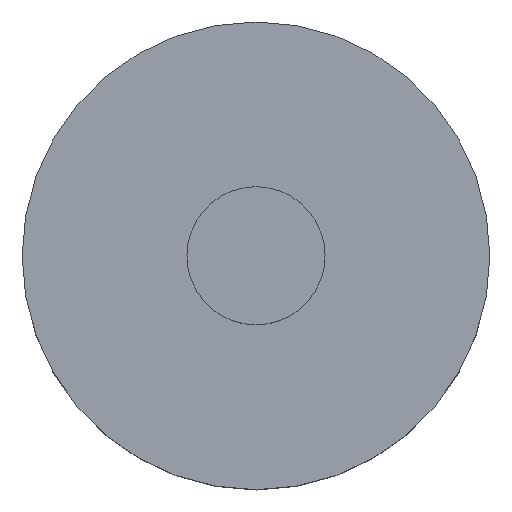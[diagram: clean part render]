
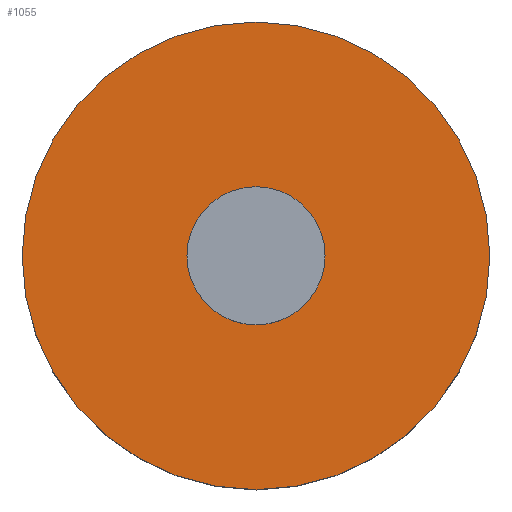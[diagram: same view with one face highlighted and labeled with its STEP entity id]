
A CAD part, top view. The second image highlights one B-rep face of the part: STEP entity #1055.
In plain terms, the highlighted planar face has unit normal (0, 0, 1).
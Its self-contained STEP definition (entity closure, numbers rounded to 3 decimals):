
#345 = CARTESIAN_POINT ( 'NONE',  ( 0., 0., 13.5 ) ) ;
#460 = CIRCLE ( 'NONE', #8787, 22. ) ;
#988 = AXIS2_PLACEMENT_3D ( 'NONE', #6843, #15241, #3539 ) ;
#1055 = ADVANCED_FACE ( 'NONE', ( #18781, #9096 ), #11658, .T. ) ;
#1301 = EDGE_LOOP ( 'NONE', ( #17411, #1823 ) ) ;
#1491 = AXIS2_PLACEMENT_3D ( 'NONE', #20574, #8902, #18853 ) ;
#1574 = CARTESIAN_POINT ( 'NONE',  ( 6.5, 0., 13.5 ) ) ;
#1823 = ORIENTED_EDGE ( 'NONE', *, *, #4190, .F. ) ;
#2002 = DIRECTION ( 'NONE',  ( 0., 0., 1. ) ) ;
#2179 = CARTESIAN_POINT ( 'NONE',  ( 22., 0., 13.5 ) ) ;
#2360 = EDGE_LOOP ( 'NONE', ( #3296, #4213 ) ) ;
#2707 = DIRECTION ( 'NONE',  ( 1., 0., 0. ) ) ;
#3296 = ORIENTED_EDGE ( 'NONE', *, *, #10696, .T. ) ;
#3539 = DIRECTION ( 'NONE',  ( 1., 0., 0. ) ) ;
#4190 = EDGE_CURVE ( 'NONE', #10594, #7989, #14310, .T. ) ;
#4213 = ORIENTED_EDGE ( 'NONE', *, *, #16866, .T. ) ;
#5251 = AXIS2_PLACEMENT_3D ( 'NONE', #20611, #10876, #2707 ) ;
#6843 = CARTESIAN_POINT ( 'NONE',  ( 0., 0., 13.5 ) ) ;
#6976 = DIRECTION ( 'NONE',  ( 0., 0., 1. ) ) ;
#7143 = VERTEX_POINT ( 'NONE', #15442 ) ;
#7989 = VERTEX_POINT ( 'NONE', #19540 ) ;
#8787 = AXIS2_PLACEMENT_3D ( 'NONE', #20131, #6976, #10250 ) ;
#8902 = DIRECTION ( 'NONE',  ( 0., 0., 1. ) ) ;
#9096 = FACE_OUTER_BOUND ( 'NONE', #2360, .T. ) ;
#9156 = CIRCLE ( 'NONE', #5251, 6.5 ) ;
#10184 = VERTEX_POINT ( 'NONE', #2179 ) ;
#10240 = DIRECTION ( 'NONE',  ( 1., 0., 0. ) ) ;
#10250 = DIRECTION ( 'NONE',  ( 1., 0., 0. ) ) ;
#10594 = VERTEX_POINT ( 'NONE', #1574 ) ;
#10696 = EDGE_CURVE ( 'NONE', #7143, #10184, #460, .T. ) ;
#10876 = DIRECTION ( 'NONE',  ( 0., 0., 1. ) ) ;
#11658 = PLANE ( 'NONE',  #14752 ) ;
#12159 = EDGE_CURVE ( 'NONE', #7989, #10594, #9156, .T. ) ;
#12225 = CIRCLE ( 'NONE', #988, 22. ) ;
#14310 = CIRCLE ( 'NONE', #1491, 6.5 ) ;
#14752 = AXIS2_PLACEMENT_3D ( 'NONE', #345, #2002, #10240 ) ;
#15241 = DIRECTION ( 'NONE',  ( 0., 0., 1. ) ) ;
#15442 = CARTESIAN_POINT ( 'NONE',  ( -22., 0., 13.5 ) ) ;
#16866 = EDGE_CURVE ( 'NONE', #10184, #7143, #12225, .T. ) ;
#17411 = ORIENTED_EDGE ( 'NONE', *, *, #12159, .F. ) ;
#18781 = FACE_BOUND ( 'NONE', #1301, .T. ) ;
#18853 = DIRECTION ( 'NONE',  ( 1., 0., 0. ) ) ;
#19540 = CARTESIAN_POINT ( 'NONE',  ( -6.5, 0., 13.5 ) ) ;
#20131 = CARTESIAN_POINT ( 'NONE',  ( 0., 0., 13.5 ) ) ;
#20574 = CARTESIAN_POINT ( 'NONE',  ( 0., 0., 13.5 ) ) ;
#20611 = CARTESIAN_POINT ( 'NONE',  ( 0., 0., 13.5 ) ) ;
